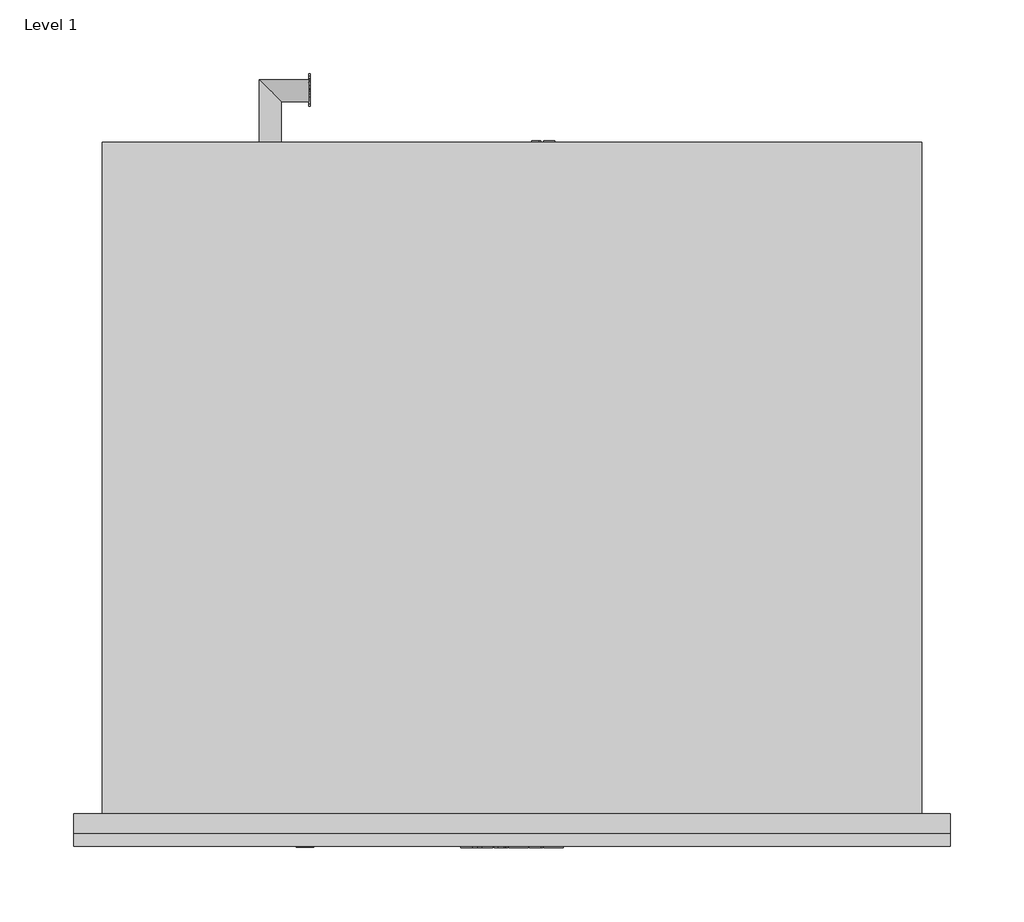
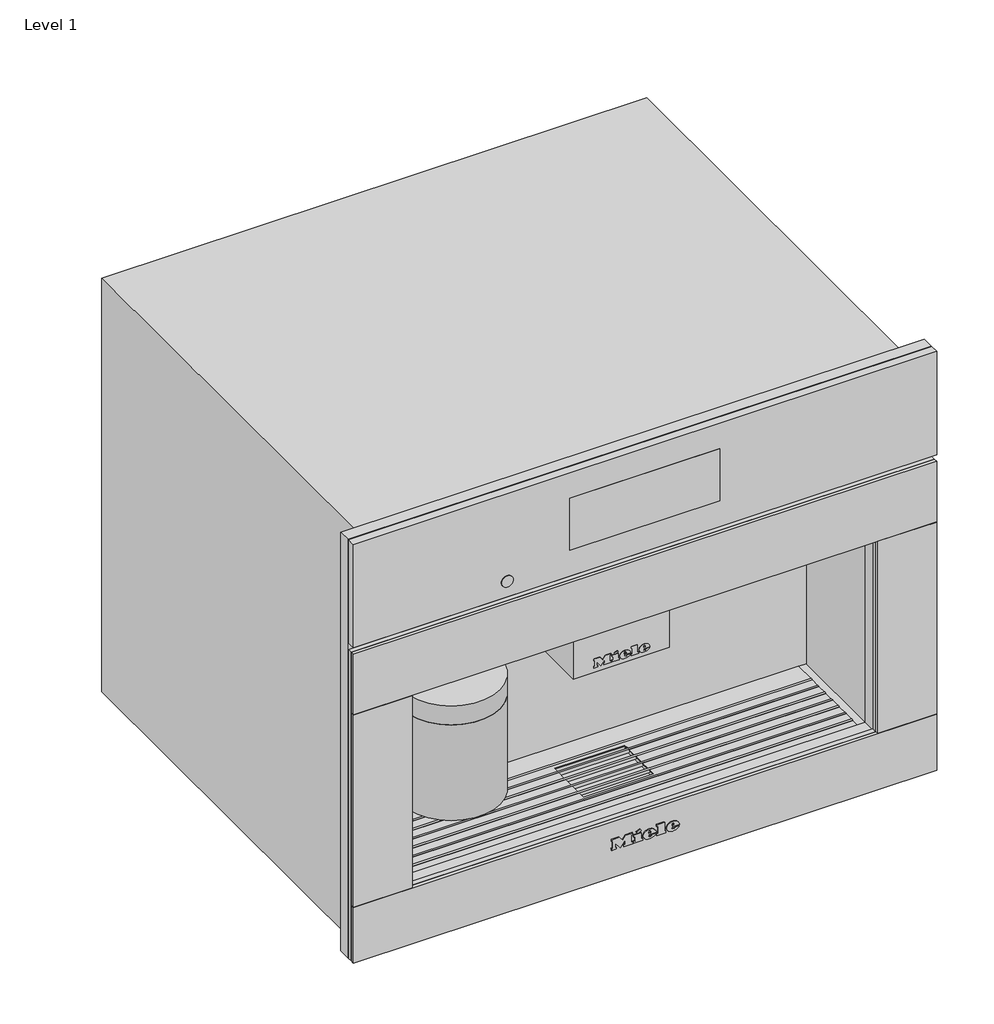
# One storey: 1 proxy.
"""IFC4 building model written with IfcOpenShell, lengths in millimetres."""

from ifc_helpers import new_model, si_unit, origin, place, context, project, spatial, transform, mapped, element, save
from components import specialty_equipment_3463d7f5

model = new_model("IFC4")

# Units and contexts
model_context = context("Model", 3, world=origin())
ifc_project = project(units=[si_unit("LENGTHUNIT", "METRE", prefix="MILLI")], contexts=[model_context])

# Site, building, storey
site = spatial("IfcSite", under=ifc_project)
building = spatial("IfcBuilding", under=site)
storey = spatial("IfcBuildingStorey", under=building, Name="Level 1", Elevation=0.0)

# Proxy
placement = place(None, origin())
specialty_equipment_shape = specialty_equipment_3463d7f5(model_context)
element("IfcBuildingElementProxy", 1, Name="11754250_USA_CVA7845_OBSW : 29784520_USA_11754250_CVA7845_OBSW", ObjectType="11754250_USA_CVA7845_OBSW : 29784520_USA_11754250_CVA7845_OBSW", at=placement, inside=storey, context=model_context, shape_type="MappedRepresentation", body=[
    mapped(specialty_equipment_shape, transform((0.0, 0.0, 0.0), x_axis=(1.0, 0.0, 0.0), y_axis=(0.0, 1.0, 0.0), z_axis=(0.0, 0.0, 1.0))),
])

save(model, "model.ifc")
